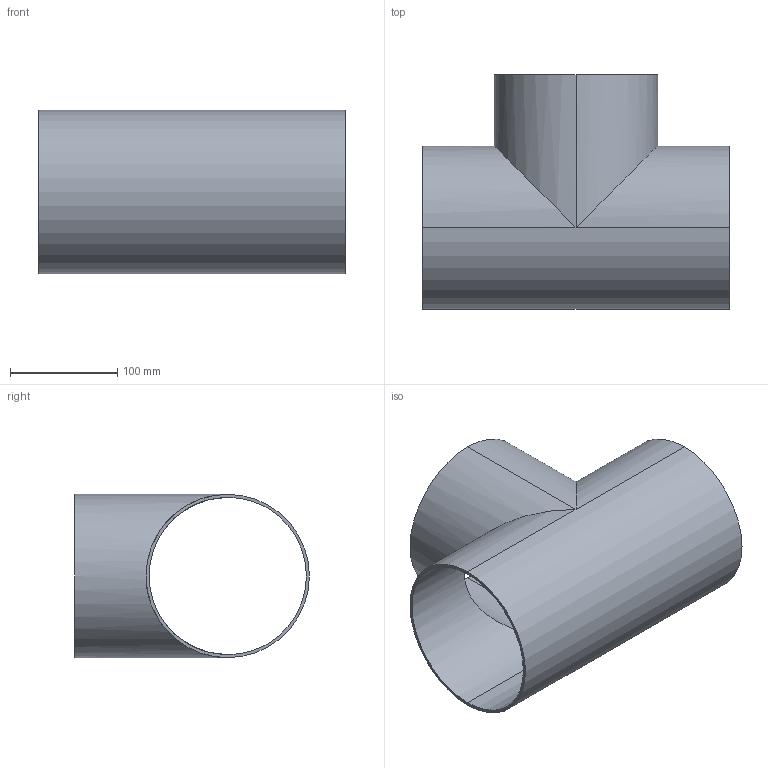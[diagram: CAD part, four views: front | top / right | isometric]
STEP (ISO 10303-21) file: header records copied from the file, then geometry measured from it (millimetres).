
FILE_DESCRIPTION (( 'STEP AP203' ), '1' );
FILE_NAME ('E7WWW6.0.STEP', '2018-05-02T17:55:00', ( 'vneprd' ), ( 'Microsoft' ), 'SwSTEP 2.0', 'SolidWorks 2014', '' );
FILE_SCHEMA (( 'CONFIG_CONTROL_DESIGN' ));
Length unit declared in the file: inch
Products named in the file (1): E7WWW6.0
Bounding box: 285.75 x 219.07 x 152.4 mm (x, y, z)
Volume: 433851.3 mm3; surface area: 317292.4 mm2
Topology: 1 solids, 1 shells, 13 faces, 28 edges, 16 vertices
Faces by surface type: cylinder 10, plane 3
Entity records: 437 total; most frequent: CARTESIAN_POINT 70, DIRECTION 64, ORIENTED_EDGE 56, EDGE_CURVE 28, AXIS2_PLACEMENT_3D 26, EDGE_LOOP 16, VERTEX_POINT 16, ADVANCED_FACE 13
